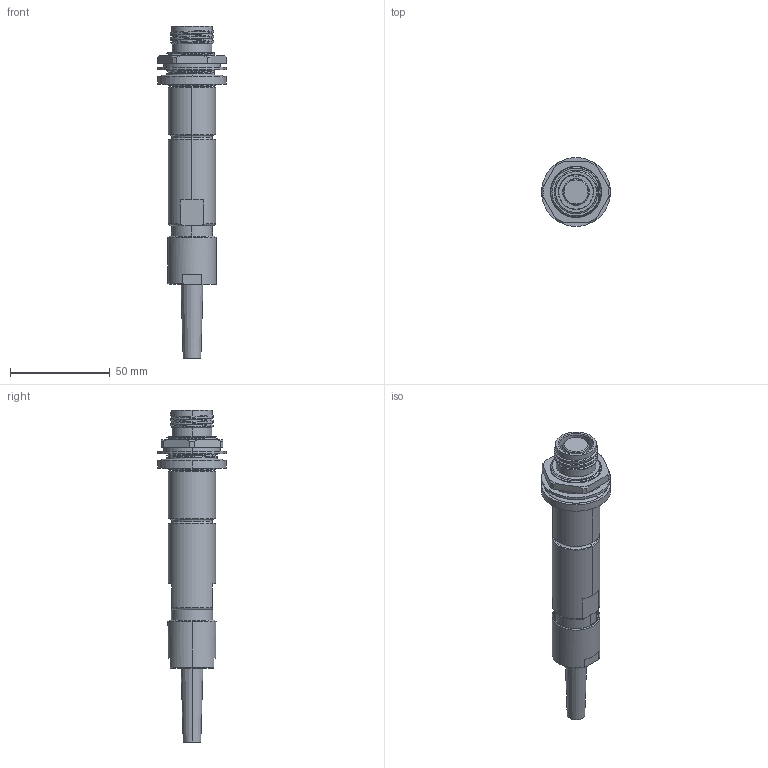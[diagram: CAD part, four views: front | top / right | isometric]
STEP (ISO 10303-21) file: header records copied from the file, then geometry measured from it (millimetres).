
FILE_DESCRIPTION (( 'STEP AP214' ), '1' );
FILE_NAME ('QLINK-RJTX-13XX-SXXX.STEP', '2025-09-30T21:56:57', ( '' ), ( '' ), 'SwSTEP 2.0', 'SolidWorks 2024', '' );
FILE_SCHEMA (( 'AUTOMOTIVE_DESIGN' ));
Length unit declared in the file: inch
Products named in the file (1): QLINK-RJTX-13XX-SXXX
Bounding box: 34.67 x 34.67 x 166.83 mm (x, y, z)
Volume: 59224.8 mm3; surface area: 20337.2 mm2
Topology: 2 solids, 2 shells, 231 faces, 597 edges, 382 vertices
Faces by surface type: cylinder 79, cone 47, plane 46, bspline 39, torus 20
Entity records: 20552 total; most frequent: CARTESIAN_POINT 15372, ORIENTED_EDGE 1194, DIRECTION 974, EDGE_CURVE 597, AXIS2_PLACEMENT_3D 400, VERTEX_POINT 382, EDGE_LOOP 253, FACE_OUTER_BOUND 231
